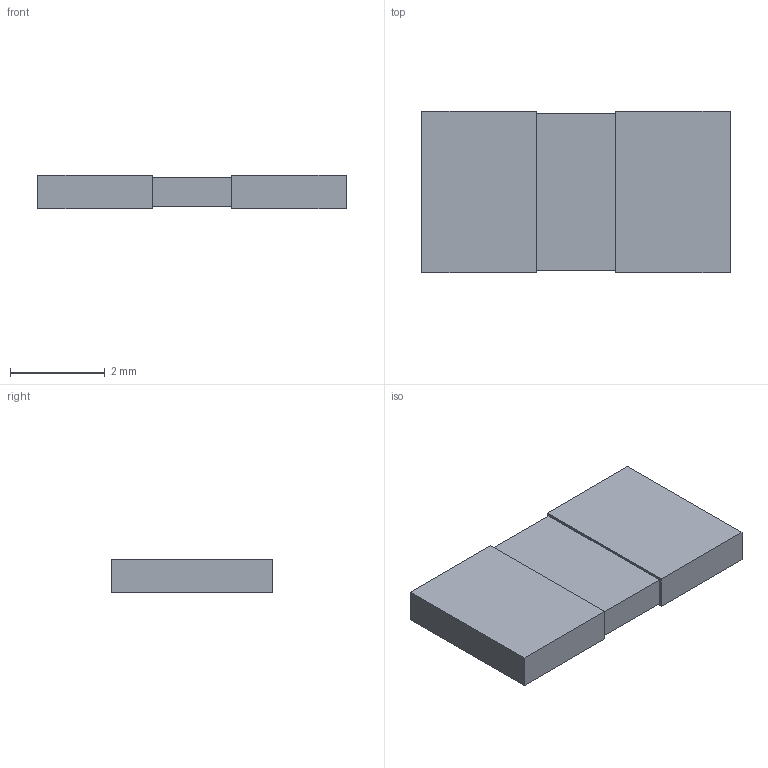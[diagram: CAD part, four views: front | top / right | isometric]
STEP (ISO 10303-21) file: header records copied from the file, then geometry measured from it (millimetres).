
FILE_DESCRIPTION(('STEP AP214'),'1');
FILE_NAME('STA_RHC2512_STP','2024-05-01T11:52:24',(''),(''),'','','');
FILE_SCHEMA(('AUTOMOTIVE_DESIGN'));
Length unit declared in the file: millimetre
Products named in the file (1): product
Bounding box: 6.5 x 3.4 x 0.71 mm (x, y, z)
Volume: 15.1 mm3; surface area: 66.6 mm2
Topology: 3 solids, 3 shells, 18 faces, 36 edges, 24 vertices
Faces by surface type: plane 18
Entity records: 606 total; most frequent: DIRECTION 74, ORIENTED_EDGE 72, CARTESIAN_POINT 43, EDGE_CURVE 36, LINE 36, VECTOR 36, VERTEX_POINT 24, AXIS2_PLACEMENT_3D 19
